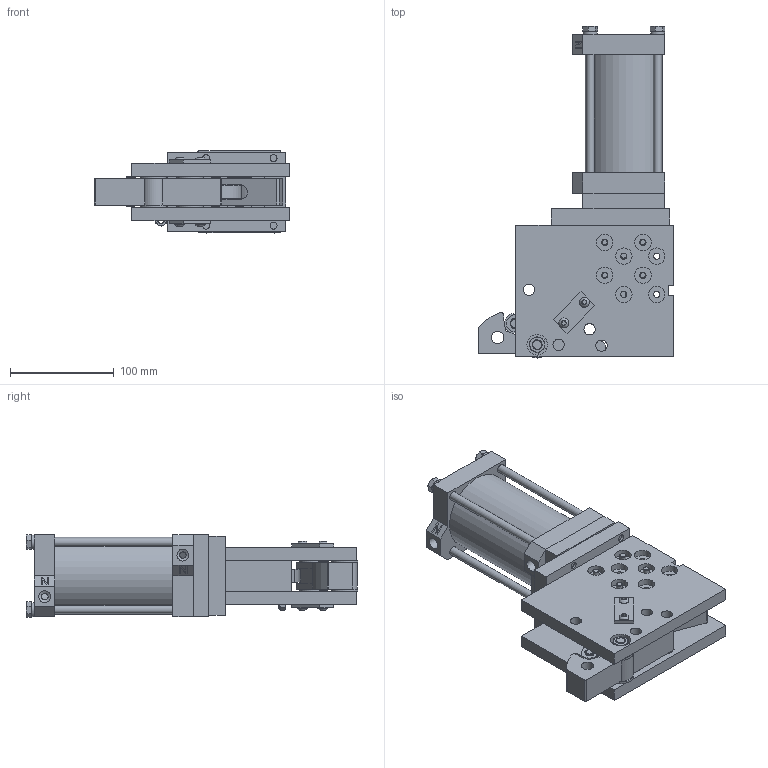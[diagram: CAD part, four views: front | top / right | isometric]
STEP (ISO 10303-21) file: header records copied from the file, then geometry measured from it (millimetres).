
FILE_DESCRIPTION(/* description */ ('SIDE PLATE-RH'),/* implementation_level */ '2;1');
FILE_NAME(/* name */ 'C:\Users\rcarver.WELKER\Desktop\CMX08H01A00.stp',/* time_stamp */ '2016-05-03T14:00:10-04:00',/* author */ ('rcarver'),/* organization */ (''),/* preprocessor_version */ 'ST-DEVELOPER v15.2',/* originating_system */ 'Autodesk Inventor 2014',/* authorisation */ '');
FILE_SCHEMA (('CONFIG_CONTROL_DESIGN'));
Products named in the file (42): CMXE01-RH; CMXE01-LH; CMXE05; CMXE06; CMXE07; CMXE19; 0.500X1.500XHH-.250; 0.375-16 HEXJAMNUT; CJ08E10-4; 1 OD X .500 ID X .03; M5X0.8-12 BHCS; C-31ST-PA; CMXE04; NUT; NYLON; 94645A205; 0.438-20X1.750 FLATPOINT; M8X1.25-20 SHCS; CMXE22; CMXE13; CMXE15-05; CMXE17; WCW-2169E01-50; NL8; MC0750X1000-125N; TSR-075BN70; CMXE03; CMXE02; DB4E16; UBS40E01N; UBS40E08; S01303E04; MOR-2.0X016.0bn70; TSP-332BN70; MA1500x2.75DIA; 0.625ID-SAE; 0.625-18 HEXNUT; UBS40E02-50; UBS40E03N; MOR-3.0X064.0bn70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
Bounding box: 188.77 x 320.15 x 79.37 mm (x, y, z)
Volume: 1366662.9 mm3; surface area: 453202.4 mm2
Topology: 72 solids, 72 shells, 1073 faces, 2306 edges, 1498 vertices
Faces by surface type: plane 516, cylinder 375, cone 160, torus 16, bspline 6
Full cylindrical faces by diameter (mm): 4.134 x4, 5 x4, 5.076 x1, 5.188 x4, 5.2 x4, 6 x14, 6.045 x16, 6.401 x2, 6.538 x1, 6.647 x16, 6.782 x4, 7.01 x6, 7.798 x1, 7.925 x9, 7.938 x4, 8 x19, 8.026 x20, 8.5 x4, 8.7 x4, 8.731 x8, 9 x4, 9.5 x4, 9.525 x2, 9.728 x3, 10.917 x8, 11.112 x1, 11.43 x4, 11.445 x2, 12 x1, 12.7 x11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
Entity records: 21377 total; most frequent: CARTESIAN_POINT 4468, DIRECTION 3564, ORIENTED_EDGE 2618, AXIS2_PLACEMENT_3D 1531, EDGE_LOOP 1320, EDGE_CURVE 1309, VERTEX_POINT 1013, ADVANCED_FACE 752
